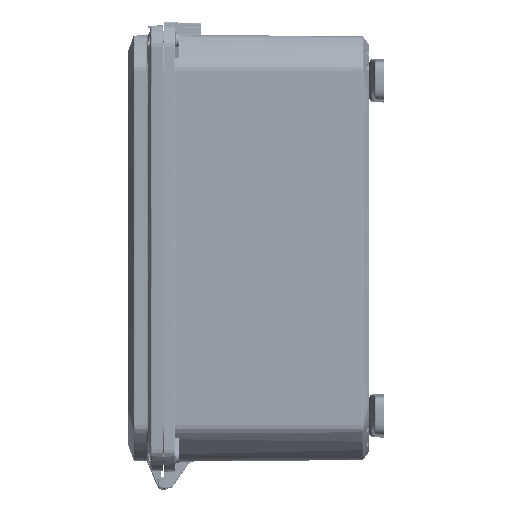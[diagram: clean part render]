
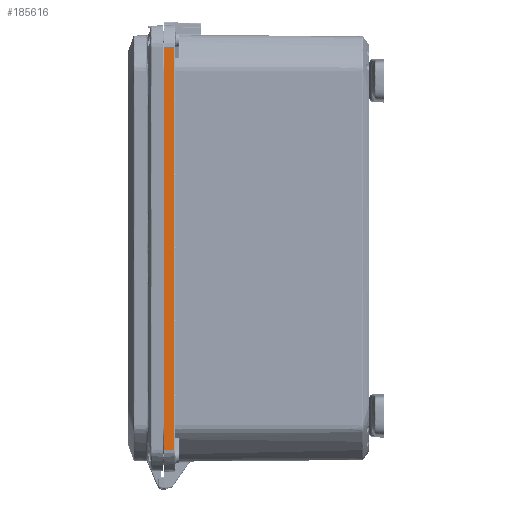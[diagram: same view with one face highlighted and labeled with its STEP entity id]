
A CAD part, left-side view. The second image highlights one B-rep face of the part: STEP entity #185616.
In plain terms, the highlighted planar face has unit normal (-0.999, -0.035, 0).
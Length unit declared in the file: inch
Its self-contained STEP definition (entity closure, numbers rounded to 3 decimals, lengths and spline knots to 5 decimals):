
#3504 = CARTESIAN_POINT ( 'NONE',  ( -8.62, 0., -6.89046 ) ) ;
#4100 = AXIS2_PLACEMENT_3D ( 'NONE', #16962, #49327, #149600 ) ;
#16962 = CARTESIAN_POINT ( 'NONE',  ( -8.62, 0., 7.3 ) ) ;
#19106 = VERTEX_POINT ( 'NONE', #28223 ) ;
#20837 = VECTOR ( 'NONE', #183495, 39.37008 ) ;
#24963 = LINE ( 'NONE', #3504, #274324 ) ;
#28223 = CARTESIAN_POINT ( 'NONE',  ( -8.60772, -0.35174, -6.89046 ) ) ;
#28852 = VERTEX_POINT ( 'NONE', #240850 ) ;
#37573 = DIRECTION ( 'NONE',  ( 0.035, -0.999, 0. ) ) ;
#49327 = DIRECTION ( 'NONE',  ( -0.999, -0.035, 0. ) ) ;
#52662 = ORIENTED_EDGE ( 'NONE', *, *, #69794, .F. ) ;
#61453 = EDGE_LOOP ( 'NONE', ( #65953, #52662, #174695, #310860 ) ) ;
#65953 = ORIENTED_EDGE ( 'NONE', *, *, #135578, .T. ) ;
#69794 = EDGE_CURVE ( 'NONE', #107825, #163911, #185551, .T. ) ;
#70617 = CARTESIAN_POINT ( 'NONE',  ( -8.60772, -0.35174, 6.89046 ) ) ;
#89756 = VECTOR ( 'NONE', #37573, 39.37008 ) ;
#107825 = VERTEX_POINT ( 'NONE', #222214 ) ;
#109975 = CARTESIAN_POINT ( 'NONE',  ( -8.60772, -0.35174, 6.89046 ) ) ;
#125265 = DIRECTION ( 'NONE',  ( 0.035, -0.999, 0. ) ) ;
#131986 = EDGE_CURVE ( 'NONE', #28852, #107825, #237627, .T. ) ;
#132584 = CARTESIAN_POINT ( 'NONE',  ( -8.62, 0., 7.3 ) ) ;
#135578 = EDGE_CURVE ( 'NONE', #19106, #163911, #182346, .T. ) ;
#149600 = DIRECTION ( 'NONE',  ( 0.035, -0.999, 0. ) ) ;
#155134 = EDGE_CURVE ( 'NONE', #28852, #19106, #24963, .T. ) ;
#163911 = VERTEX_POINT ( 'NONE', #70617 ) ;
#167386 = CARTESIAN_POINT ( 'NONE',  ( -8.62, 0., 6.89046 ) ) ;
#174695 = ORIENTED_EDGE ( 'NONE', *, *, #131986, .F. ) ;
#182346 = LINE ( 'NONE', #109975, #247499 ) ;
#183495 = DIRECTION ( 'NONE',  ( 0., 0., 1. ) ) ;
#185551 = LINE ( 'NONE', #167386, #89756 ) ;
#185616 = ADVANCED_FACE ( 'NONE', ( #316117 ), #274480, .T. ) ;
#222214 = CARTESIAN_POINT ( 'NONE',  ( -8.62, 0., 6.89046 ) ) ;
#237627 = LINE ( 'NONE', #132584, #20837 ) ;
#240850 = CARTESIAN_POINT ( 'NONE',  ( -8.62, 0., -6.89046 ) ) ;
#247499 = VECTOR ( 'NONE', #305610, 39.37008 ) ;
#274324 = VECTOR ( 'NONE', #125265, 39.37008 ) ;
#274480 = PLANE ( 'NONE',  #4100 ) ;
#305610 = DIRECTION ( 'NONE',  ( 0., 0., 1. ) ) ;
#310860 = ORIENTED_EDGE ( 'NONE', *, *, #155134, .T. ) ;
#316117 = FACE_OUTER_BOUND ( 'NONE', #61453, .T. ) ;
